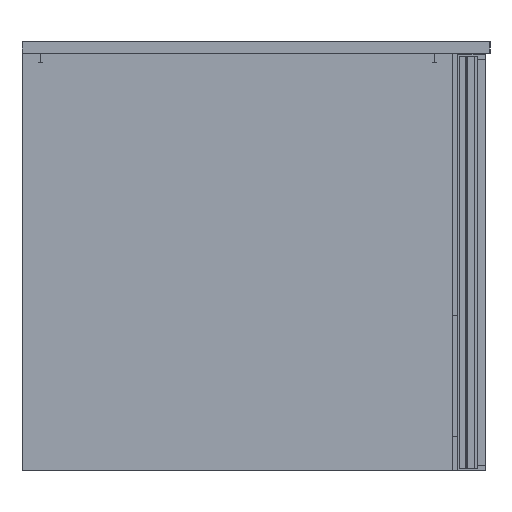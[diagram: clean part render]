
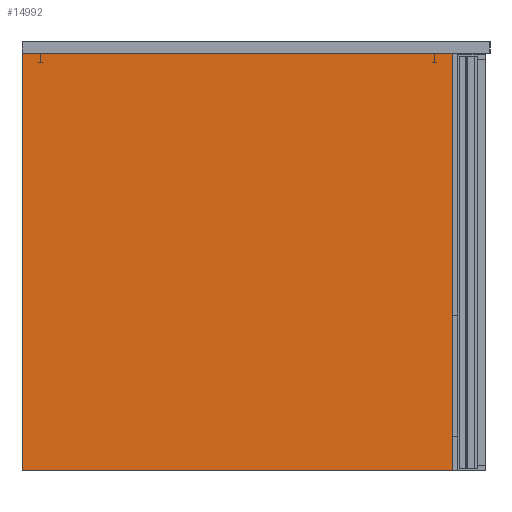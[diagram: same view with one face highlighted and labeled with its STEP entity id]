
A CAD part, left-side view. The second image highlights one B-rep face of the part: STEP entity #14992.
In plain terms, the highlighted planar face has unit normal (-1, 0, 0).
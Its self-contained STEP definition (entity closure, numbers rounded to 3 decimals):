
#1206 = AXIS2_PLACEMENT_3D ( 'NONE', #23524, #23331, #15453 ) ;
#1534 = PLANE ( 'NONE',  #1206 ) ;
#2041 = EDGE_LOOP ( 'NONE', ( #7527, #12248, #30909, #23252 ) ) ;
#2581 = VECTOR ( 'NONE', #31184, 1000. ) ;
#3737 = CARTESIAN_POINT ( 'NONE',  ( -25606.728, -9786.584, 440. ) ) ;
#6936 = CARTESIAN_POINT ( 'NONE',  ( -25606.728, -9786.584, 215. ) ) ;
#7527 = ORIENTED_EDGE ( 'NONE', *, *, #36206, .F. ) ;
#7841 = VERTEX_POINT ( 'NONE', #22147 ) ;
#9835 = DIRECTION ( 'NONE',  ( 0., 0., -1. ) ) ;
#11017 = LINE ( 'NONE', #13786, #23078 ) ;
#11148 = EDGE_CURVE ( 'NONE', #35594, #7841, #27598, .T. ) ;
#12248 = ORIENTED_EDGE ( 'NONE', *, *, #33860, .F. ) ;
#12333 = FACE_OUTER_BOUND ( 'NONE', #2041, .T. ) ;
#13786 = CARTESIAN_POINT ( 'NONE',  ( -25606.728, -9554.084, -10. ) ) ;
#14992 = ADVANCED_FACE ( 'NONE', ( #12333 ), #1534, .F. ) ;
#15453 = DIRECTION ( 'NONE',  ( 0., 0., -1. ) ) ;
#15980 = VERTEX_POINT ( 'NONE', #29620 ) ;
#16808 = EDGE_CURVE ( 'NONE', #7841, #26374, #34298, .T. ) ;
#19666 = CARTESIAN_POINT ( 'NONE',  ( -25606.728, -9554.084, 440. ) ) ;
#21202 = LINE ( 'NONE', #6936, #30160 ) ;
#22147 = CARTESIAN_POINT ( 'NONE',  ( -25606.728, -9321.584, 440. ) ) ;
#22193 = DIRECTION ( 'NONE',  ( 0., 1., 0. ) ) ;
#23078 = VECTOR ( 'NONE', #22193, 1000. ) ;
#23252 = ORIENTED_EDGE ( 'NONE', *, *, #11148, .F. ) ;
#23331 = DIRECTION ( 'NONE',  ( 1., 0., 0. ) ) ;
#23524 = CARTESIAN_POINT ( 'NONE',  ( -25606.728, -9554.084, 215. ) ) ;
#24482 = DIRECTION ( 'NONE',  ( 0., 0., 1. ) ) ;
#26307 = CARTESIAN_POINT ( 'NONE',  ( -25606.728, -9321.584, -10. ) ) ;
#26374 = VERTEX_POINT ( 'NONE', #3737 ) ;
#27598 = LINE ( 'NONE', #30337, #35925 ) ;
#29620 = CARTESIAN_POINT ( 'NONE',  ( -25606.728, -9786.584, -10. ) ) ;
#30160 = VECTOR ( 'NONE', #9835, 1000. ) ;
#30337 = CARTESIAN_POINT ( 'NONE',  ( -25606.728, -9321.584, 215. ) ) ;
#30909 = ORIENTED_EDGE ( 'NONE', *, *, #16808, .F. ) ;
#31184 = DIRECTION ( 'NONE',  ( 0., -1., 0. ) ) ;
#33860 = EDGE_CURVE ( 'NONE', #26374, #15980, #21202, .T. ) ;
#34298 = LINE ( 'NONE', #19666, #2581 ) ;
#35594 = VERTEX_POINT ( 'NONE', #26307 ) ;
#35925 = VECTOR ( 'NONE', #24482, 1000. ) ;
#36206 = EDGE_CURVE ( 'NONE', #15980, #35594, #11017, .T. ) ;
